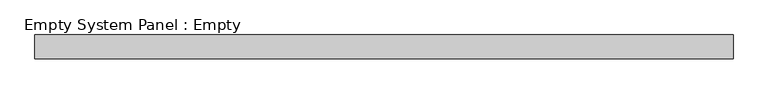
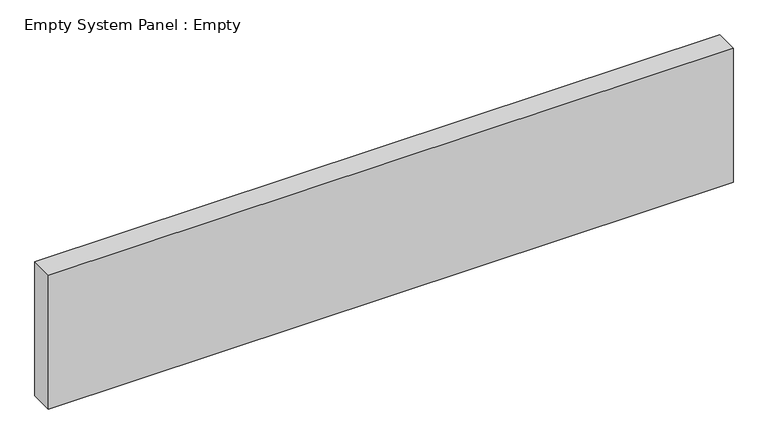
"""IFC4 building model written with IfcOpenShell, lengths in millimetres: plate geometry, Empty System Panel : Empty."""

from ifc_helpers import new_model, si_unit, origin, origin_with_axes, place, context, project, spatial, polyline, outline, extrude, source, transform, mapped, element, save


def empty_system_panel_empty_714687c1(model_context):
    return source(origin(), model_context, "Body", "SweptSolid", [
        extrude(outline(polyline([(1462.5, -50.0), (-1462.5, -50.0), (-1462.5, 50.0), (1462.5, 50.0), (1462.5, -50.0)])), origin_with_axes(), (0.0, 0.0, 1.0), 605.0),
    ])


if __name__ == "__main__":
    model = new_model("IFC4")
    model_context = context("Model", 3, world=origin())
    ifc_project = project(units=[si_unit("LENGTHUNIT", "METRE", prefix="MILLI")], contexts=[model_context])
    site = spatial("IfcSite", under=ifc_project)
    building = spatial("IfcBuilding", under=site)
    placement = place(None, origin())
    empty_system_panel_empty_shape = empty_system_panel_empty_714687c1(model_context)
    element("IfcPlate", 1, ObjectType="Empty System Panel : Empty", at=placement, inside=building, context=model_context, shape_type="MappedRepresentation", body=[
        mapped(empty_system_panel_empty_shape, transform((0.0, 0.0, 0.0), x_axis=(1.0, 0.0, 0.0), y_axis=(0.0, 1.0, 0.0), z_axis=(0.0, 0.0, 1.0))),
    ])
    save(model, "model.ifc")
